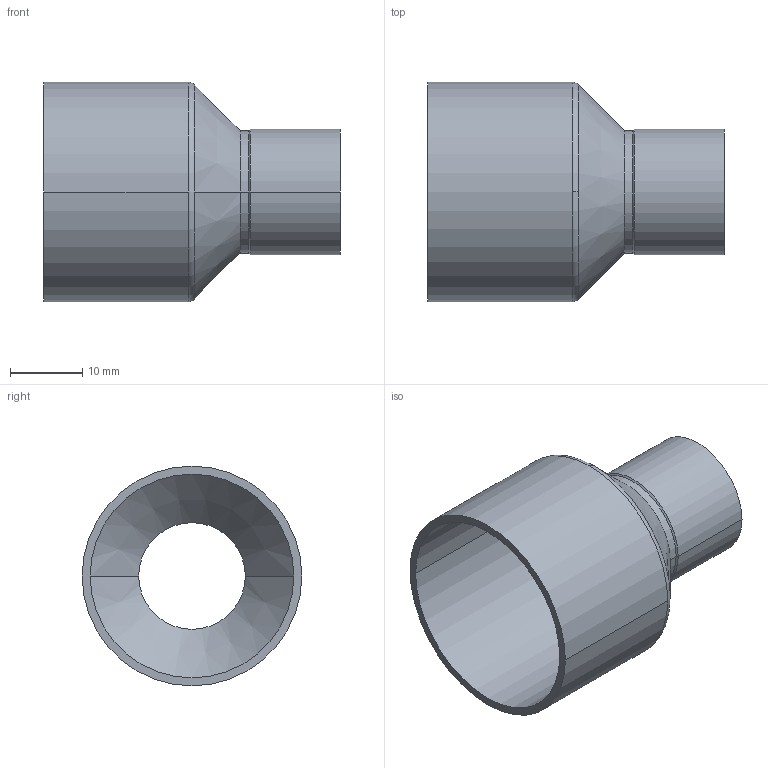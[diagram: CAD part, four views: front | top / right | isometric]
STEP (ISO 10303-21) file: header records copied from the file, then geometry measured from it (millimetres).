
FILE_DESCRIPTION((''),'2;1');
FILE_NAME('G:\Technics\CAD\Bauteile\Serie 15240\152402815.stp','2005-10-21T12:51:09',('boden'),(''),'Autodesk Inventor 8','Autodesk Inventor 8','');
FILE_SCHEMA(('AUTOMOTIVE_DESIGN { 1 0 10303 214 1 1 1 1 }'));
Length unit declared in the file: millimetre
Products named in the file (1): 152402815
Bounding box: 41 x 30.33 x 30.33 mm (x, y, z)
Volume: 3569.2 mm3; surface area: 6646.3 mm2
Topology: 1 solids, 1 shells, 24 faces, 52 edges, 30 vertices
Faces by surface type: cylinder 12, cone 8, torus 2, plane 2
Entity records: 683 total; most frequent: DIRECTION 134, CARTESIAN_POINT 107, ORIENTED_EDGE 104, AXIS2_PLACEMENT_3D 57, EDGE_CURVE 52, CIRCLE 32, VERTEX_POINT 30, EDGE_LOOP 26
